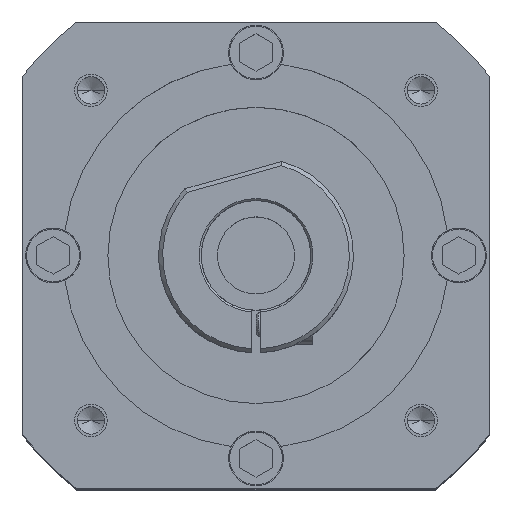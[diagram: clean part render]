
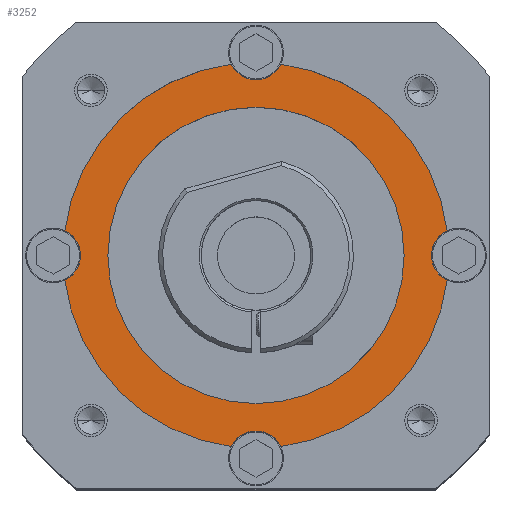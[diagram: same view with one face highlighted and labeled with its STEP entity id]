
A CAD part, top view. The second image highlights one B-rep face of the part: STEP entity #3252.
In plain terms, the highlighted planar face has unit normal (0, 0, 1).
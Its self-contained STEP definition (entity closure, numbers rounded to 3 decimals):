
#944=CARTESIAN_POINT('',(0.,0.,44.));
#945=DIRECTION('',(0.,0.,1.));
#946=DIRECTION('',(1.,0.,0.));
#947=AXIS2_PLACEMENT_3D('',#944,#945,#946);
#949=CARTESIAN_POINT('',(0.,0.,44.));
#950=DIRECTION('',(0.,0.,1.));
#951=DIRECTION('',(-1.,0.,0.));
#952=AXIS2_PLACEMENT_3D('',#949,#950,#951);
#954=CARTESIAN_POINT('',(0.,50.,44.));
#955=DIRECTION('',(0.,0.,-1.));
#956=DIRECTION('',(0.903,-0.429,0.));
#957=AXIS2_PLACEMENT_3D('',#954,#955,#956);
#959=CARTESIAN_POINT('',(50.,0.,44.));
#960=DIRECTION('',(0.,0.,-1.));
#961=DIRECTION('',(-1.,0.,0.));
#962=AXIS2_PLACEMENT_3D('',#959,#960,#961);
#964=CARTESIAN_POINT('',(50.,0.,44.));
#965=DIRECTION('',(0.,0.,-1.));
#966=DIRECTION('',(-0.429,-0.903,0.));
#967=AXIS2_PLACEMENT_3D('',#964,#965,#966);
#969=CARTESIAN_POINT('',(0.,-50.,44.));
#970=DIRECTION('',(0.,0.,-1.));
#971=DIRECTION('',(-0.903,0.429,0.));
#972=AXIS2_PLACEMENT_3D('',#969,#970,#971);
#974=CARTESIAN_POINT('',(-50.,0.,44.));
#975=DIRECTION('',(0.,0.,-1.));
#976=DIRECTION('',(1.,0.,0.));
#977=AXIS2_PLACEMENT_3D('',#974,#975,#976);
#979=CARTESIAN_POINT('',(-50.,0.,44.));
#980=DIRECTION('',(0.,0.,-1.));
#981=DIRECTION('',(0.429,0.903,0.));
#982=AXIS2_PLACEMENT_3D('',#979,#980,#981);
#1023=CARTESIAN_POINT('',(0.,0.,44.));
#1024=DIRECTION('',(0.,0.,1.));
#1025=DIRECTION('',(-0.992,-0.128,0.));
#1026=AXIS2_PLACEMENT_3D('',#1023,#1024,#1025);
#1041=CARTESIAN_POINT('',(0.,0.,44.));
#1042=DIRECTION('',(0.,0.,1.));
#1043=DIRECTION('',(0.128,-0.992,0.));
#1044=AXIS2_PLACEMENT_3D('',#1041,#1042,#1043);
#1059=CARTESIAN_POINT('',(0.,0.,44.));
#1060=DIRECTION('',(0.,0.,1.));
#1061=DIRECTION('',(0.992,0.128,0.));
#1062=AXIS2_PLACEMENT_3D('',#1059,#1060,#1061);
#1068=CARTESIAN_POINT('',(0.,0.,44.));
#1069=DIRECTION('',(0.,0.,1.));
#1070=DIRECTION('',(-0.128,0.992,0.));
#1071=AXIS2_PLACEMENT_3D('',#1068,#1069,#1070);
#1746=CARTESIAN_POINT('',(36.5,0.,44.));
#1747=VERTEX_POINT('',#1746);
#1748=CARTESIAN_POINT('',(-36.5,0.,44.));
#1749=VERTEX_POINT('',#1748);
#1840=CARTESIAN_POINT('',(-43.25,0.,44.));
#1841=VERTEX_POINT('',#1840);
#1878=CARTESIAN_POINT('',(43.25,0.,44.));
#1879=VERTEX_POINT('',#1878);
#1906=CARTESIAN_POINT('',(-47.107,6.099,44.));
#1907=VERTEX_POINT('',#1906);
#1908=CARTESIAN_POINT('',(-47.107,-6.099,44.));
#1909=VERTEX_POINT('',#1908);
#1912=CARTESIAN_POINT('',(-6.099,-47.107,44.));
#1913=CARTESIAN_POINT('',(6.099,-47.107,44.));
#1914=VERTEX_POINT('',#1912);
#1915=VERTEX_POINT('',#1913);
#1916=CARTESIAN_POINT('',(47.107,6.099,44.));
#1917=VERTEX_POINT('',#1916);
#1918=CARTESIAN_POINT('',(47.107,-6.099,44.));
#1919=VERTEX_POINT('',#1918);
#1922=CARTESIAN_POINT('',(6.099,47.107,44.));
#1923=CARTESIAN_POINT('',(-6.099,47.107,44.));
#1924=VERTEX_POINT('',#1922);
#1925=VERTEX_POINT('',#1923);
#3221=CARTESIAN_POINT('',(0.,0.,44.));
#3222=DIRECTION('',(0.,0.,1.));
#3223=DIRECTION('',(1.,0.,0.));
#3224=AXIS2_PLACEMENT_3D('',#3221,#3222,#3223);
#3225=PLANE('',#3224);
#3227=ORIENTED_EDGE('',*,*,#3226,.F.);
#3229=ORIENTED_EDGE('',*,*,#3228,.F.);
#3231=ORIENTED_EDGE('',*,*,#3230,.F.);
#3233=ORIENTED_EDGE('',*,*,#3232,.F.);
#3235=ORIENTED_EDGE('',*,*,#3234,.F.);
#3237=ORIENTED_EDGE('',*,*,#3236,.F.);
#3239=ORIENTED_EDGE('',*,*,#3238,.F.);
#3241=ORIENTED_EDGE('',*,*,#3240,.F.);
#3243=ORIENTED_EDGE('',*,*,#3242,.F.);
#3245=ORIENTED_EDGE('',*,*,#3244,.F.);
#3246=EDGE_LOOP('',(#3227,#3229,#3231,#3233,#3235,#3237,#3239,#3241,#3243,
#3245));
#3247=FACE_OUTER_BOUND('',#3246,.F.);
#3248=ORIENTED_EDGE('',*,*,#3168,.T.);
#3249=ORIENTED_EDGE('',*,*,#3146,.T.);
#3250=EDGE_LOOP('',(#3248,#3249));
#3251=FACE_BOUND('',#3250,.F.);
#3252=ADVANCED_FACE('',(#3247,#3251),#3225,.T.);
#948=CIRCLE('',#947,36.5);
#953=CIRCLE('',#952,36.5);
#958=CIRCLE('',#957,6.75);
#963=CIRCLE('',#962,6.75);
#968=CIRCLE('',#967,6.75);
#973=CIRCLE('',#972,6.75);
#978=CIRCLE('',#977,6.75);
#983=CIRCLE('',#982,6.75);
#1027=CIRCLE('',#1026,47.5);
#1045=CIRCLE('',#1044,47.5);
#1063=CIRCLE('',#1062,47.5);
#1072=CIRCLE('',#1071,47.5);
#3146=EDGE_CURVE('',#1749,#1747,#953,.T.);
#3168=EDGE_CURVE('',#1747,#1749,#948,.T.);
#3226=EDGE_CURVE('',#1924,#1925,#958,.T.);
#3228=EDGE_CURVE('',#1917,#1924,#1063,.T.);
#3230=EDGE_CURVE('',#1879,#1917,#963,.T.);
#3232=EDGE_CURVE('',#1919,#1879,#968,.T.);
#3234=EDGE_CURVE('',#1915,#1919,#1045,.T.);
#3236=EDGE_CURVE('',#1914,#1915,#973,.T.);
#3238=EDGE_CURVE('',#1909,#1914,#1027,.T.);
#3240=EDGE_CURVE('',#1841,#1909,#978,.T.);
#3242=EDGE_CURVE('',#1907,#1841,#983,.T.);
#3244=EDGE_CURVE('',#1925,#1907,#1072,.T.);
